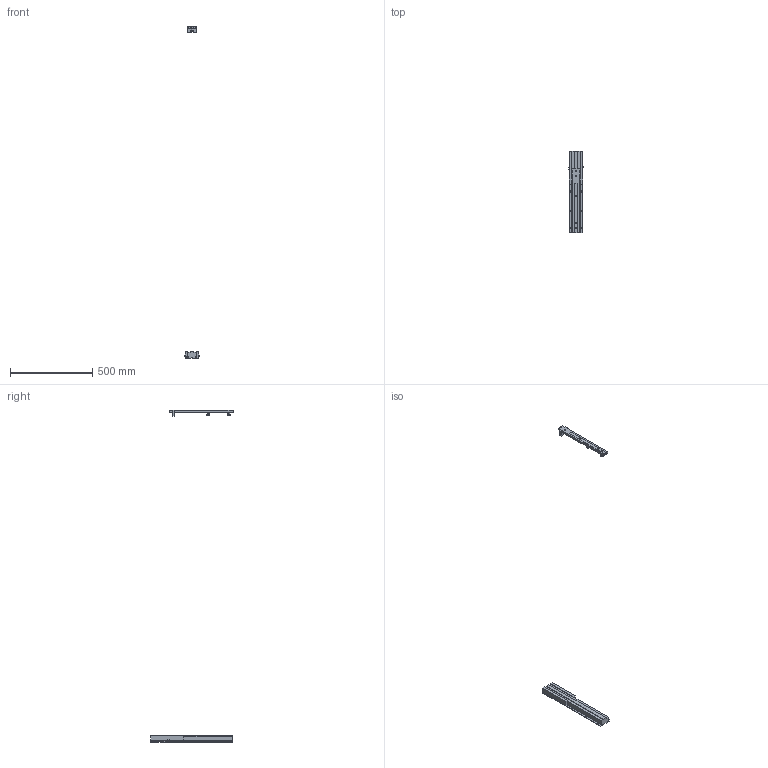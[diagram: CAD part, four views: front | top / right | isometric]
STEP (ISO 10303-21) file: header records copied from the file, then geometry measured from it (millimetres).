
FILE_DESCRIPTION(('STEP AP242'),'1');
FILE_NAME('OPO_53.150.54_volu_schn_3d.stp','2026-01-27T03:46:17',(' '),(' '),'Spatial InterOp 3D',' ',' ');
FILE_SCHEMA(('AP242_MANAGED_MODEL_BASED_3D_ENGINEERING_MIM_LF {1 0 10303 442 1 1 4}'));
Length unit declared in the file: millimetre
Products named in the file (1): 1
Bounding box: 87 x 499 x 2018 mm (x, y, z)
Volume: 1367297.3 mm3; surface area: 206563 mm2
Topology: 4 solids, 4 shells, 150 faces, 761 edges, 975 vertices
Faces by surface type: plane 92, cylinder 58
Entity records: 10380 total; most frequent: DIRECTION 1238, CARTESIAN_POINT 1184, ORIENTED_EDGE 804, LINE 594, VECTOR 594, STYLED_ITEM 512, PRESENTATION_STYLE_ASSIGNMENT 512, COLOUR_RGB 512
